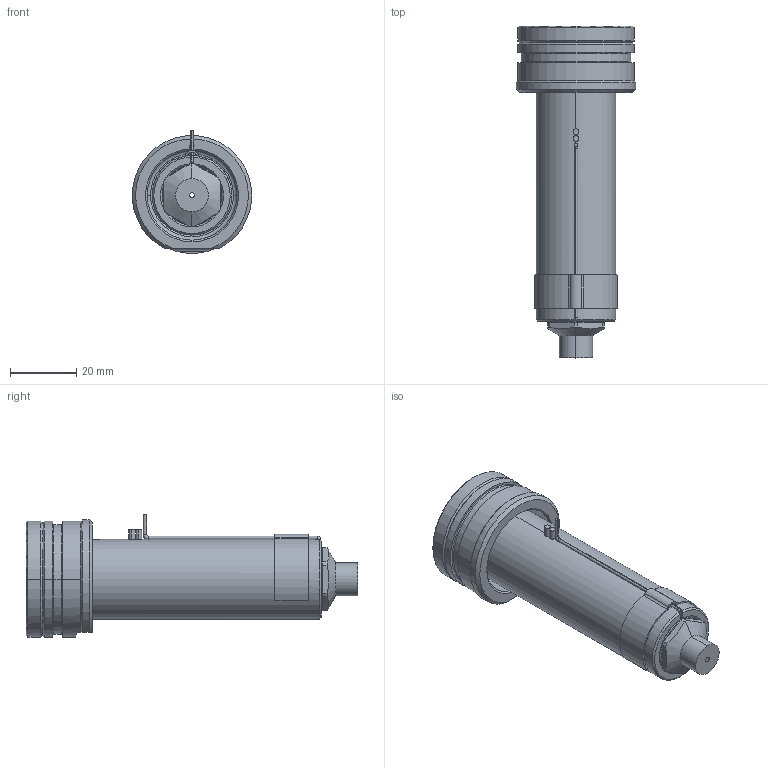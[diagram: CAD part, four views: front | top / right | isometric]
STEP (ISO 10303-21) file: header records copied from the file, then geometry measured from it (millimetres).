
FILE_DESCRIPTION((''),'2;1');
FILE_NAME('EO06_VG-FB_STD_080_SW','2024-02-19T13:23:51',('sundharh'),(''),'CREO PARAMETRIC BY PTC INC, 2023154','CREO PARAMETRIC BY PTC INC, 2023154','');
FILE_SCHEMA(('CONFIG_CONTROL_DESIGN'));
Length unit declared in the file: millimetre
Products named in the file (1): EO06_VG-FB_STD_080_SW
Bounding box: 35.93 x 100 x 37 mm (x, y, z)
Volume: 47415.2 mm3; surface area: 14927.7 mm2
Topology: 2 solids, 2 shells, 203 faces, 502 edges, 301 vertices
Faces by surface type: cylinder 76, plane 42, cone 38, torus 29, bspline 16, sphere 2
Entity records: 6908 total; most frequent: CARTESIAN_POINT 2029, DIRECTION 1092, ORIENTED_EDGE 992, EDGE_CURVE 496, AXIS2_PLACEMENT_3D 462, VERTEX_POINT 301, CIRCLE 275, EDGE_LOOP 217
